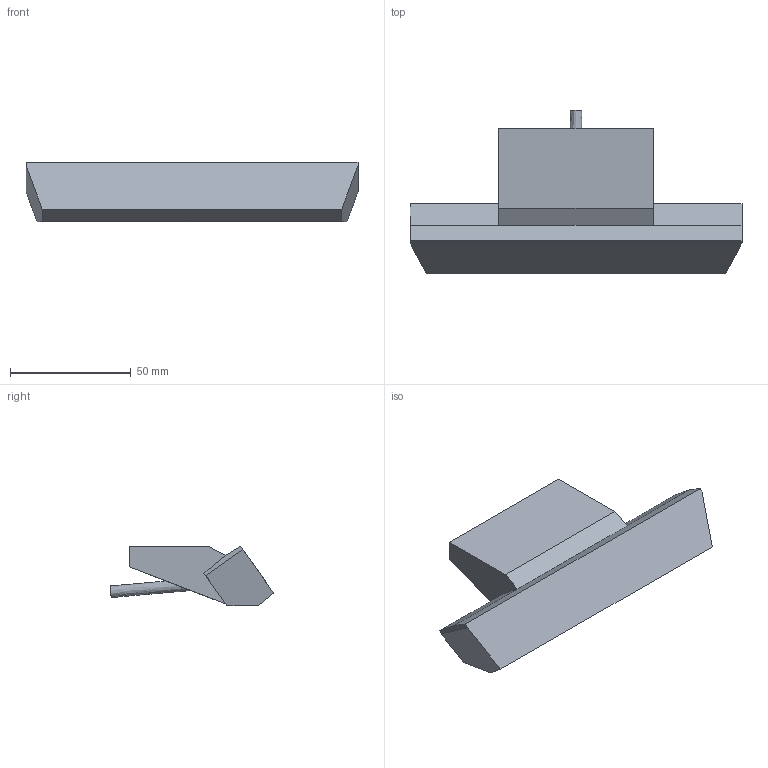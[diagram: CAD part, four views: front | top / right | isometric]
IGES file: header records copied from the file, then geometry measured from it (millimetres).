
Start section: Data from Parasolid IGES Translator 20.0.26, Copyright(c) 2006 Siemens P LM Software. All Rights Reserved.
Global section: file name: 9277919.igs; native system: By Siemens PLM Incorporated; preprocessor: XPlus GENERIC/IGES 20.0.26; author: Noname; organization: Noname; date: 20201028.170757; units: millimetre
Bounding box: 137.22 x 67.62 x 24.55 mm (x, y, z)
Surface area: 17053.6 mm2 (no closed solid volume)
Topology: 0 solids, 0 shells, 20 faces, 98 edges, 96 vertices
Faces by surface type: extrusion 19, revolution 1
